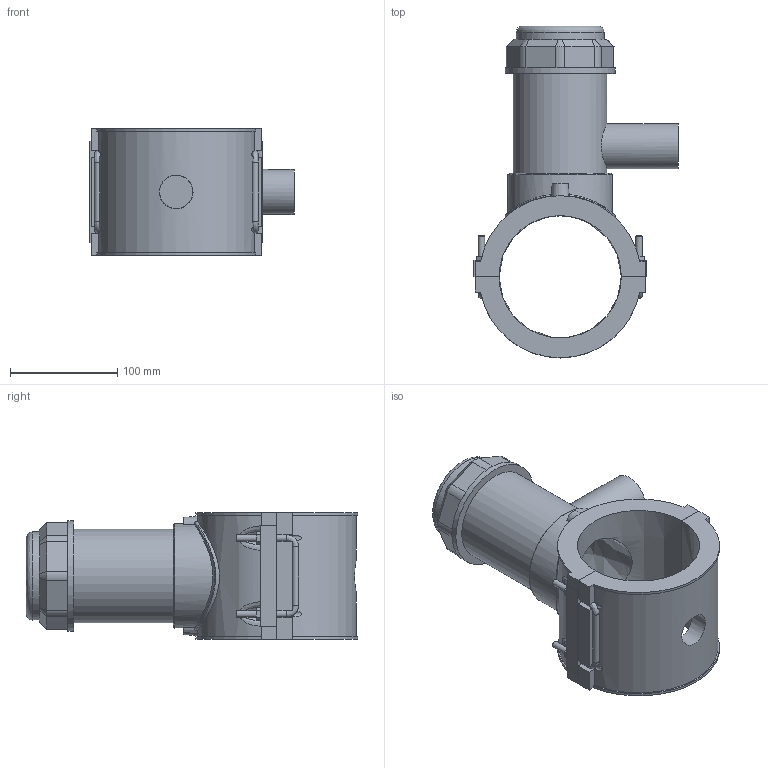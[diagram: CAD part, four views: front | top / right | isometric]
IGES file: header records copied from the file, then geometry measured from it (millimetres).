
Global section: file name: 5963BB03040013.ipt; native system: Autodesk Inventor 2019; preprocessor: unknown; author: KIM; date: 20210830.101401; units: millimetre
Bounding box: 190.48 x 309.74 x 118.11 mm (x, y, z)
Volume: 1403618.3 mm3; surface area: 231043.2 mm2
Topology: 1 solids, 3 shells, 215 faces, 569 edges, 370 vertices
Faces by surface type: plane 126, cylinder 40, revolution 28, cone 15, bspline 6
Full cylindrical faces by diameter (mm): 6 x8, 42.1 x1, 82.152 x1, 87.287 x1, 97.555 x1, 102.69 x1
